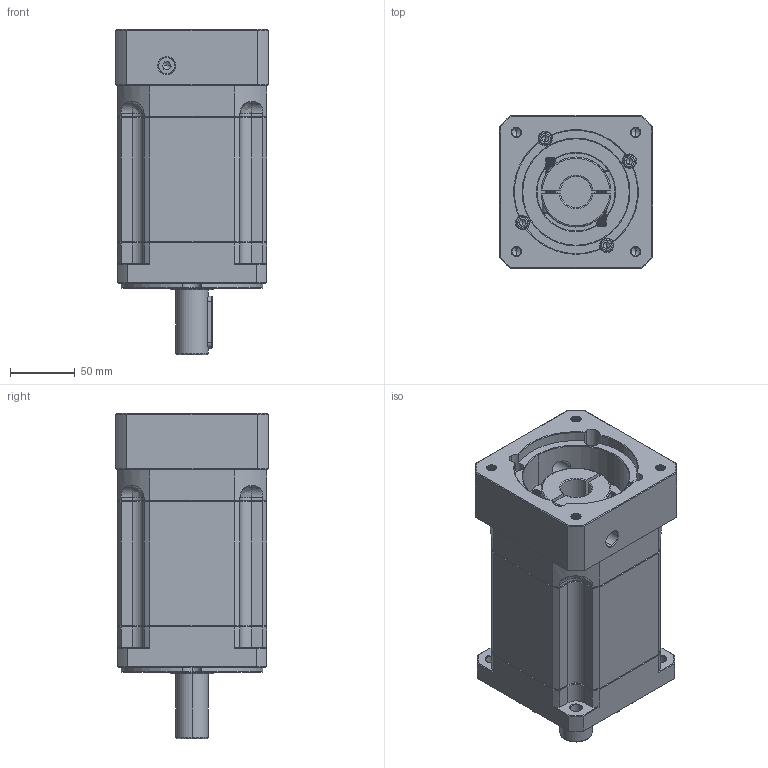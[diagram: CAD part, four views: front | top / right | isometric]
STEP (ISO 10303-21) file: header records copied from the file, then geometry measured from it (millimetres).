
FILE_DESCRIPTION (( 'STEP AP214' ), '1' );
FILE_NAME ('ZB115A-D25-L3-P2-24-95-130-M8.step', '2023-08-26T06:26:23', ( '' ), ( '' ), 'SwSTEP 2.0', 'SolidWorks 2016', '' );
FILE_SCHEMA (( 'AUTOMOTIVE_DESIGN' ));
Length unit declared in the file: millimetre
Products named in the file (1): ZB115A-D25-L3-P2-24-95-130-M8
Bounding box: 118 x 118 x 250.5 mm (x, y, z)
Volume: 2220424.4 mm3; surface area: 193729.2 mm2
Topology: 6 solids, 6 shells, 2401 faces, 6316 edges, 4011 vertices
Faces by surface type: plane 1144, cylinder 444, bspline 423, cone 370, torus 20
Entity records: 129522 total; most frequent: CARTESIAN_POINT 47446, ORIENTED_EDGE 12564, DIRECTION 9953, EDGE_CURVE 6282, VERTEX_POINT 4011, VECTOR 4003, LINE 4003, AXIS2_PLACEMENT_3D 2975
